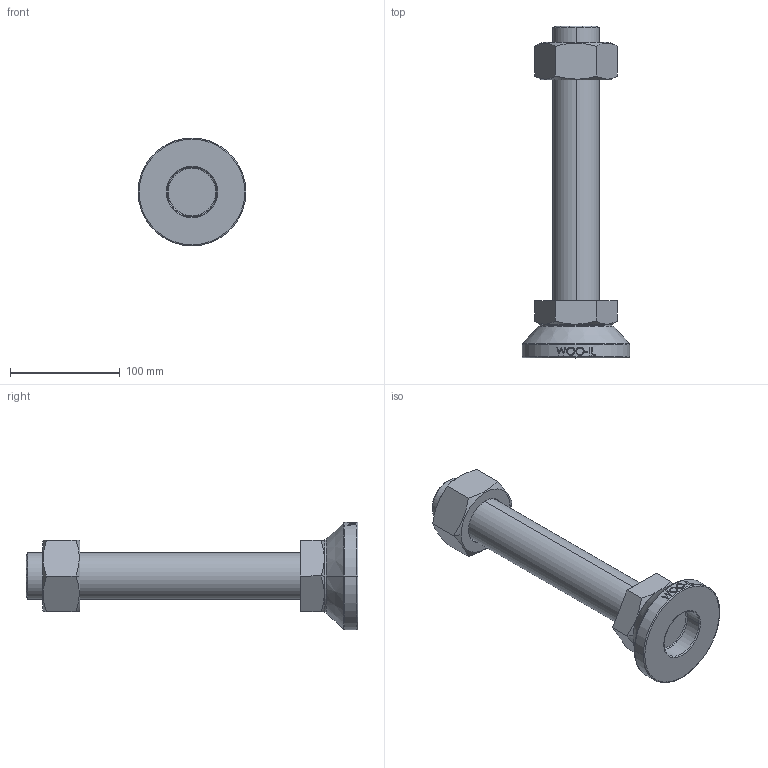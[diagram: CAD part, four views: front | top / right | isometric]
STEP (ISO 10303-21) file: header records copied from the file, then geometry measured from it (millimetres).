
FILE_DESCRIPTION (( 'STEP AP214' ), '1' );
FILE_NAME ('MF98-M42-250.step', '2021-02-03T08:24:35', ( '' ), ( '' ), 'SwSTEP 2.0', 'SolidWorks 2019', '' );
FILE_SCHEMA (( 'AUTOMOTIVE_DESIGN' ));
Length unit declared in the file: millimetre
Products named in the file (2): MF98-M42-250
Bounding box: 98 x 302 x 98 mm (x, y, z)
Volume: 663635.2 mm3; surface area: 84020 mm2
Topology: 3 solids, 3 shells, 106 faces, 243 edges, 154 vertices
Faces by surface type: plane 48, cylinder 18, bspline 16, cone 14, torus 10
Entity records: 4566 total; most frequent: CARTESIAN_POINT 2223, ORIENTED_EDGE 486, DIRECTION 439, EDGE_CURVE 243, AXIS2_PLACEMENT_3D 170, VERTEX_POINT 154, EDGE_LOOP 119, FACE_OUTER_BOUND 106
